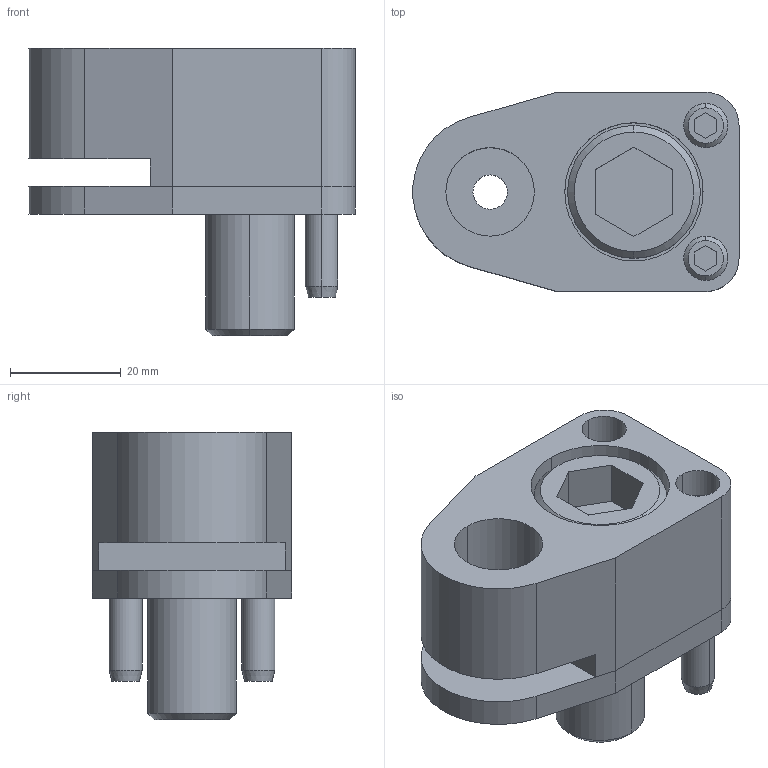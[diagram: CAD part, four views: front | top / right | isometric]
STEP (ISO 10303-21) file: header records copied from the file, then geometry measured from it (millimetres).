
FILE_DESCRIPTION(/* description */ (''),/* implementation_level */ '2;1');
FILE_NAME(/* name */ '3d_sp-fps16_02790_r00.stp',/* time_stamp */ '2011-01-10T14:10:16+09:00',/* author */ ('MISUMI'),/* organization */ (''),/* preprocessor_version */ 'ST-DEVELOPER v11',/* originating_system */ 'UGS - NX 5.0',/* authorisation */ '');
FILE_SCHEMA (('CONFIG_CONTROL_DESIGN'));
Length unit declared in the file: millimetre
Products named in the file (1): 3d_sp-fps16_02790_r00
Bounding box: 58.95 x 36 x 52 mm (x, y, z)
Volume: 50275.4 mm3; surface area: 21387 mm2
Topology: 7 solids, 7 shells, 129 faces, 294 edges, 189 vertices
Faces by surface type: plane 57, cylinder 50, cone 22
Entity records: 3792 total; most frequent: DIRECTION 672, CARTESIAN_POINT 666, ORIENTED_EDGE 588, EDGE_CURVE 294, AXIS2_PLACEMENT_3D 253, VERTEX_POINT 189, LINE 166, VECTOR 166
